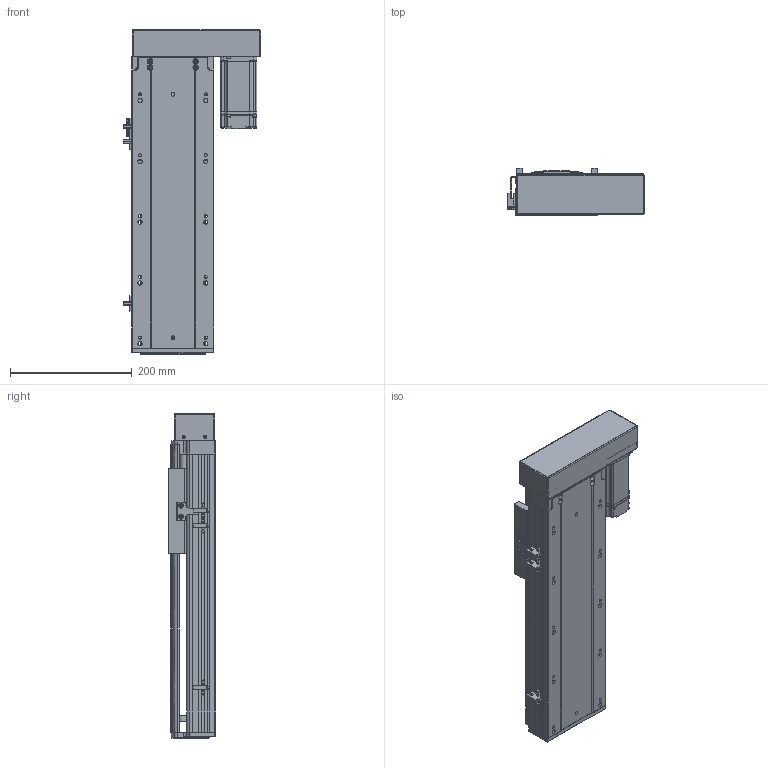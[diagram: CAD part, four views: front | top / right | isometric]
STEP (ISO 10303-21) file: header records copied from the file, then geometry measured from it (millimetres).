
FILE_DESCRIPTION (( 'STEP AP203' ), '1' );
FILE_NAME ('RY140-L1620-300-RK.SLDASM_250.step', '2021-02-22T02:54:12', ( '盈信电脑' ), ( '东莞市道滘镇水果街19号' ), 'SwSTEP 2.0', 'SolidWorks 2012', '' );
FILE_SCHEMA (( 'CONFIG_CONTROL_DESIGN' ));
Products named in the file (14): RY140-L1620-300-RK.SLDASM_250; RY120外置感应片(140共用）; 覜茼ん672; 15; 侂狟400W侜督萇儂; RY140蛌殏萇儂假蚾啣; RY140酘衵殏萇儂欶; 滅袉蝶18-10; 滅袉蝶18-24; RY140转折电机端支撑座; RY140綴裔啣; RY140-300蛌殏倰第菁釱-RK_250; RY140-300蛌殏倰第奻裔啣-RK_250; RY140臏賑輸
Assembly tree (16 placements, depth 3):
  RY140-L1620-300-RK.SLDASM_250
    RY140-300蛌殏倰第菁釱-RK_250
    RY140臏賑輸
    RY140-300蛌殏倰第奻裔啣-RK_250
    RY140綴裔啣
    滅袉蝶18-24  x2
    滅袉蝶18-10
    RY140转折电机端支撑座
    RY140蛌殏萇儂假蚾啣
    侂狟400W侜督萇儂
      15
    RY140酘衵殏萇儂欶
    覜茼ん672  x3
    RY120外置感应片(140共用）
Bounding box: 225.2 x 78 x 533 mm (x, y, z)
Volume: 2209130.1 mm3; surface area: 759949 mm2
Topology: 15 solids, 15 shells, 2199 faces, 6060 edges, 3900 vertices
Faces by surface type: plane 1178, cylinder 766, cone 162, bspline 93
Entity records: 69583 total; most frequent: CARTESIAN_POINT 16931, ORIENTED_EDGE 10888, DIRECTION 10269, EDGE_CURVE 5444, VERTEX_POINT 3568, LINE 3549, VECTOR 3549, AXIS2_PLACEMENT_3D 3360
